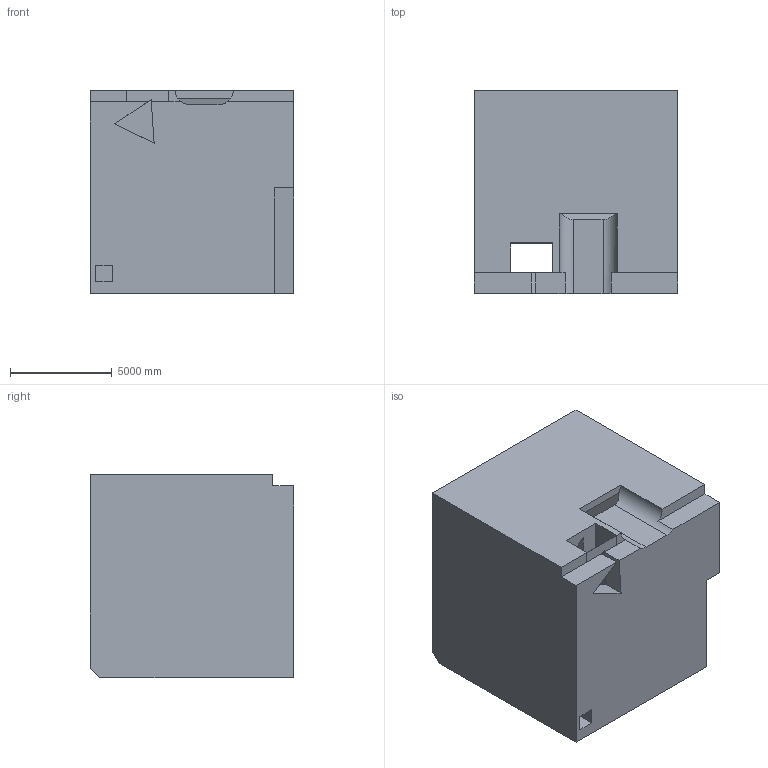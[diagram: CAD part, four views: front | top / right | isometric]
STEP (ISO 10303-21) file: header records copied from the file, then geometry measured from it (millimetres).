
FILE_DESCRIPTION (( 'STEP AP203' ), '1' );
FILE_NAME ('77.STEP', '2022-09-02T14:03:16', ( 'user' ), ( '' ), 'SwSTEP 2.0', 'SolidWorks 2021', '' );
FILE_SCHEMA (( 'CONFIG_CONTROL_DESIGN' ));
Length unit declared in the file: centimetre
Products named in the file (1): 77
Bounding box: 10000 x 10000 x 10000 mm (x, y, z)
Volume: 928269482742 mm3; surface area: 743615173.2 mm2
Topology: 1 solids, 1 shells, 39 faces, 120 edges, 80 vertices
Faces by surface type: plane 37, cylinder 2
Entity records: 1413 total; most frequent: CARTESIAN_POINT 246, ORIENTED_EDGE 240, DIRECTION 204, EDGE_CURVE 120, LINE 112, VECTOR 112, VERTEX_POINT 80, AXIS2_PLACEMENT_3D 46
